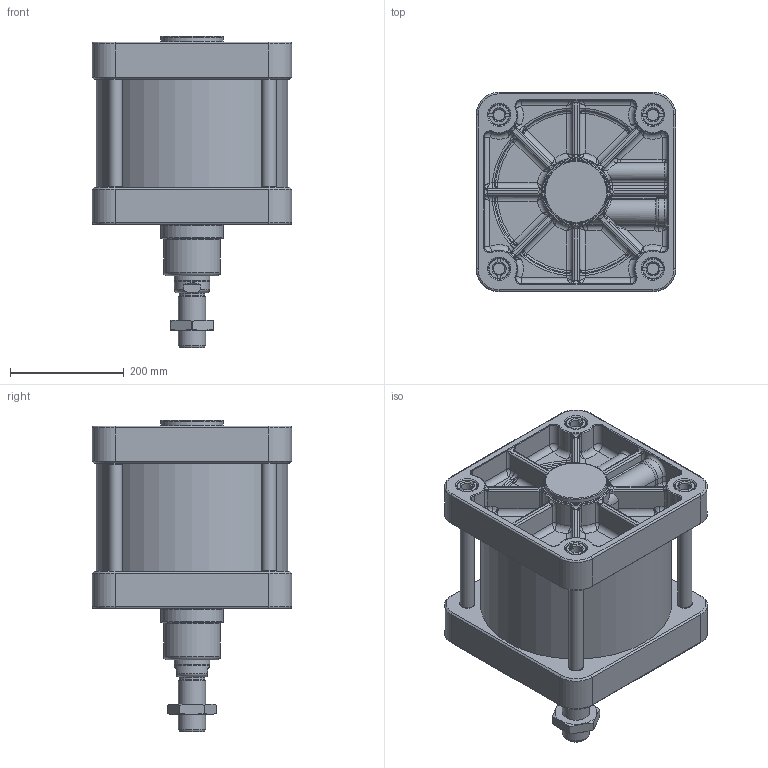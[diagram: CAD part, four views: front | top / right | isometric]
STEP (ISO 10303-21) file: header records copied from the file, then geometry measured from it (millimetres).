
FILE_DESCRIPTION(/* description */ ('Unknown'),/* implementation_level */ '2;1');
FILE_NAME(/* name */ 'UDM 320_100',/* time_stamp */ '2024-08-16T08:56:58+02:00',/* author */ ('Unknown'),/* organization */ ('Unknown'),/* preprocessor_version */ 'ST-DEVELOPER v16.7',/* originating_system */ 'Solid Edge',/* authorisation */ 'Unknown');
FILE_SCHEMA (('AUTOMOTIVE_DESIGN {1 0 10303 214 3 1 1}'));
Length unit declared in the file: millimetre
Products named in the file (7): UDM 320_100; Profilrohr 320_100; Mutter; Kolbenstange 320_100; Kit_1; Zugstange 320_100; Kit_2
Assembly tree (9 placements, depth 2):
  UDM 320_100
    Profilrohr 320_100
    Mutter
    Kolbenstange 320_100
    Kit_1
    Zugstange 320_100  x4
    Kit_2
Bounding box: 350 x 350 x 546 mm (x, y, z)
Volume: 19089739.2 mm3; surface area: 1933098.9 mm2
Topology: 9 solids, 13 shells, 1447 faces, 3485 edges, 1991 vertices
Faces by surface type: cylinder 494, plane 385, bspline 208, torus 205, cone 105, sphere 50
Full cylindrical faces by diameter (mm): 8 x2, 10 x2, 11 x2, 11.2 x2, 16 x2, 20.74 x8, 20.752 x8, 24 x10, 24.5 x8, 25 x6, 30.28 x2, 30.291 x2, 36 x8, 37 x8, 40 x2, 44.8 x1, 45.835 x1, 48 x1, 62 x1, 63 x1, 68 x1, 75 x2, 100 x1, 110 x2, 320 x2, 336 x1
Entity records: 67618 total; most frequent: CARTESIAN_POINT 28243, ORIENTED_EDGE 6438, DIRECTION 5386, EDGE_CURVE 3219, AXIS2_PLACEMENT_3D 2149, VERTEX_POINT 1925, EDGE_LOOP 1548, FACE_BOUND 1548
